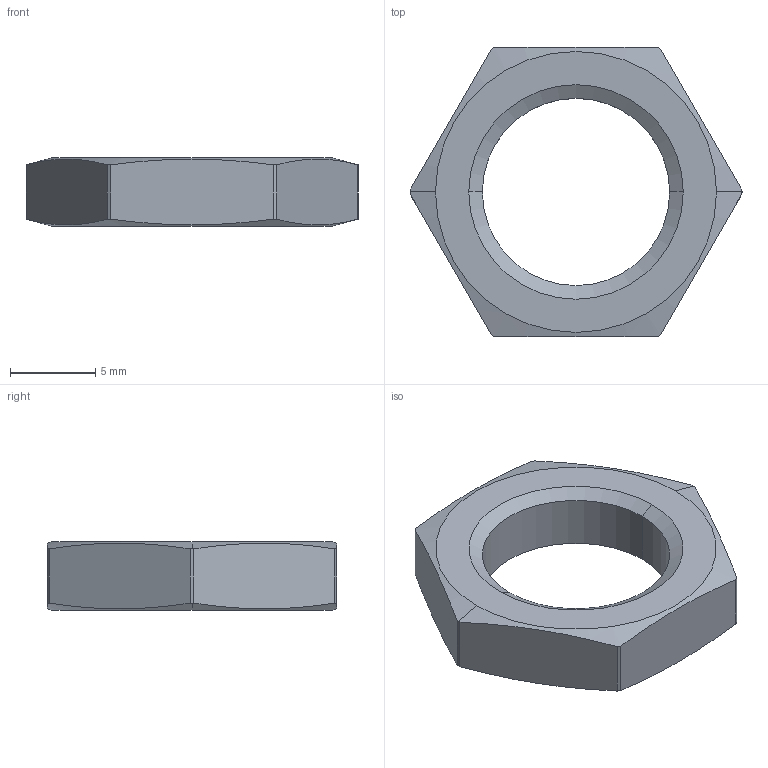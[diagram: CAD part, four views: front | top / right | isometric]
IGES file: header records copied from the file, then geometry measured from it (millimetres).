
Global section: file name: No Iges File Name specified; native system: Autodesk Inventor 2009; preprocessor: AutoDesk Inventor Iges Exporter R2009; author: Oliver Liedtke; date: 20100126.125525; units: millimetre
Bounding box: 19.5 x 17 x 4 mm (x, y, z)
Volume: 598.5 mm3; surface area: 641.2 mm2
Topology: 1 solids, 1 shells, 24 faces, 62 edges, 40 vertices
Faces by surface type: plane 8, revolution 6, cylinder 6, cone 4
